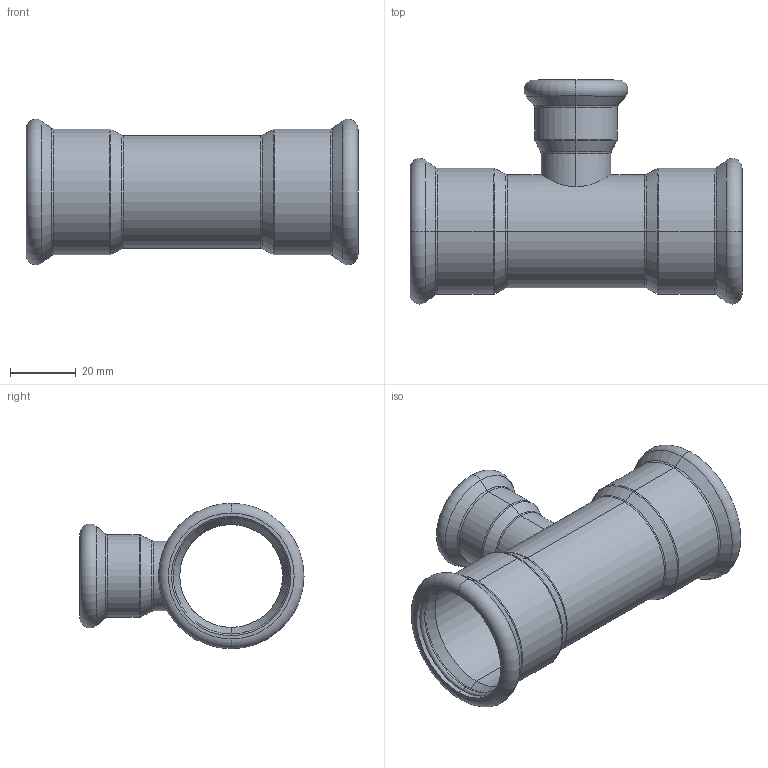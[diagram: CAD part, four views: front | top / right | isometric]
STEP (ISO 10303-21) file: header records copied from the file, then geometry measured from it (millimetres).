
FILE_DESCRIPTION (( 'STEP AP214' ), '1' );
FILE_NAME ('T35220R.STEP', '2025-08-18T00:42:16', ( '' ), ( '' ), 'SwSTEP 2.0', 'SolidWorks 2020', '' );
FILE_SCHEMA (( 'AUTOMOTIVE_DESIGN' ));
Length unit declared in the file: millimetre
Products named in the file (1): T35220R
Bounding box: 101 x 68.15 x 44.3 mm (x, y, z)
Volume: 22333.5 mm3; surface area: 30927.9 mm2
Topology: 4 solids, 4 shells, 98 faces, 198 edges, 106 vertices
Faces by surface type: torus 42, cylinder 26, cone 24, plane 6
Entity records: 3885 total; most frequent: CARTESIAN_POINT 595, DIRECTION 536, ORIENTED_EDGE 396, AXIS2_PLACEMENT_3D 243, EDGE_CURVE 198, CIRCLE 144, EDGE_LOOP 106, VERTEX_POINT 106
